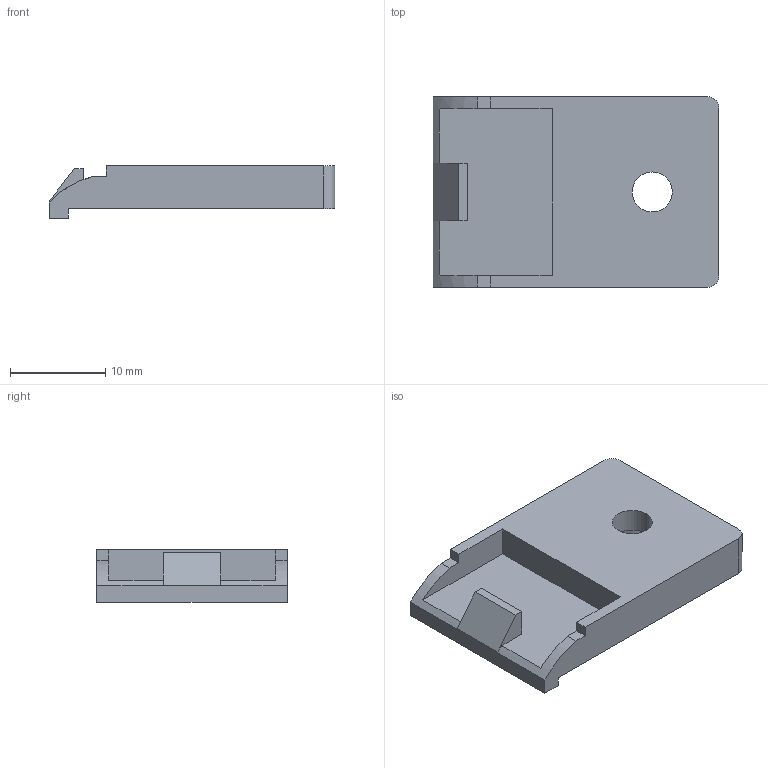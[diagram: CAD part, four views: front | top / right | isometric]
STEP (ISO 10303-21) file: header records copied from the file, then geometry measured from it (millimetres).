
FILE_DESCRIPTION (( 'STEP AP214' ), '1' );
FILE_NAME ('Frontbodenverbinder_KD50000100.STEP', '2013-02-21T15:43:13', ( 'Grass' ), ( '' ), 'SwSTEP 2.0', 'SolidWorks 2012', '' );
FILE_SCHEMA (( 'AUTOMOTIVE_DESIGN' ));
Length unit declared in the file: millimetre
Products named in the file (1): Frontbodenverbinder_KD50000100
Bounding box: 30 x 20 x 5.5 mm (x, y, z)
Volume: 1944.5 mm3; surface area: 1771.3 mm2
Topology: 1 solids, 1 shells, 29 faces, 79 edges, 52 vertices
Faces by surface type: plane 21, cylinder 6, cone 2
Entity records: 951 total; most frequent: CARTESIAN_POINT 161, ORIENTED_EDGE 158, DIRECTION 155, EDGE_CURVE 79, LINE 63, VECTOR 63, VERTEX_POINT 52, AXIS2_PLACEMENT_3D 46
